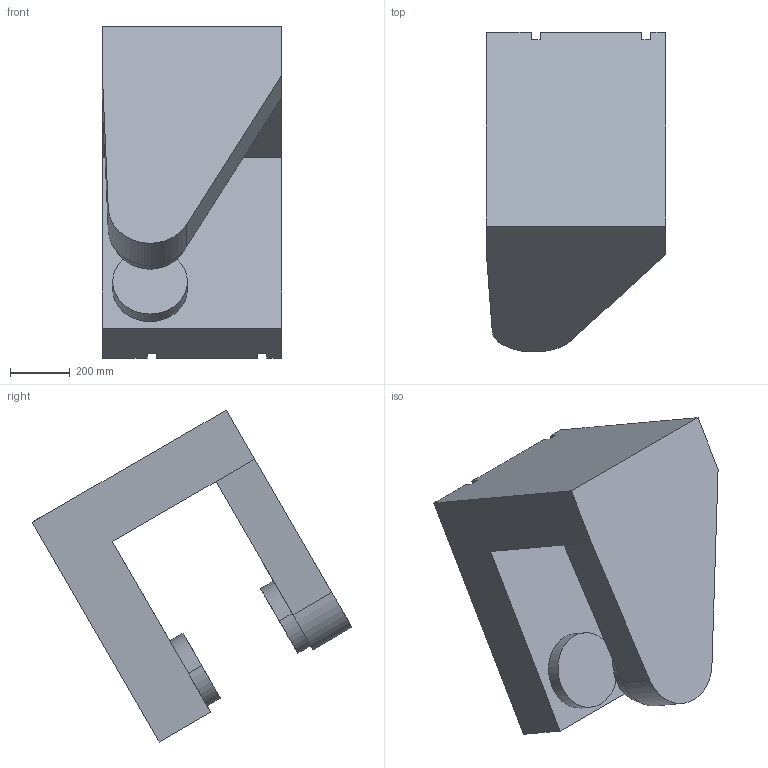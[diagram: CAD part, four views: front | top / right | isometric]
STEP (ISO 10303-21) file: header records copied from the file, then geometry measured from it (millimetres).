
FILE_DESCRIPTION(('CATIA V5 STEP Exchange'),'2;1');
FILE_NAME('D:\Clients_NCS8\Cenit-AG\Import\OKUMA250\X1.stp','2005-03-09T16:52:57+00:00',('none'),('none'),'CATIA Version 5 Release 14 (IN-10)','CATIA V5 STEP AP203','none');
FILE_SCHEMA(('CONFIG_CONTROL_DESIGN'));
Length unit declared in the file: millimetre
Products named in the file (1): okuma_dr-fr
Assembly tree (1 placements, depth 2):
  okuma_dr-fr
    #56
Bounding box: 600 x 1070.7 x 1111.82 mm (x, y, z)
Volume: 207455064.9 mm3; surface area: 3311537.1 mm2
Topology: 1 solids, 1 shells, 26 faces, 68 edges, 46 vertices
Faces by surface type: plane 21, cylinder 5
Entity records: 827 total; most frequent: CARTESIAN_POINT 137, ORIENTED_EDGE 136, DIRECTION 114, EDGE_CURVE 68, VECTOR 58, LINE 58, VERTEX_POINT 46, AXIS2_PLACEMENT_3D 33
